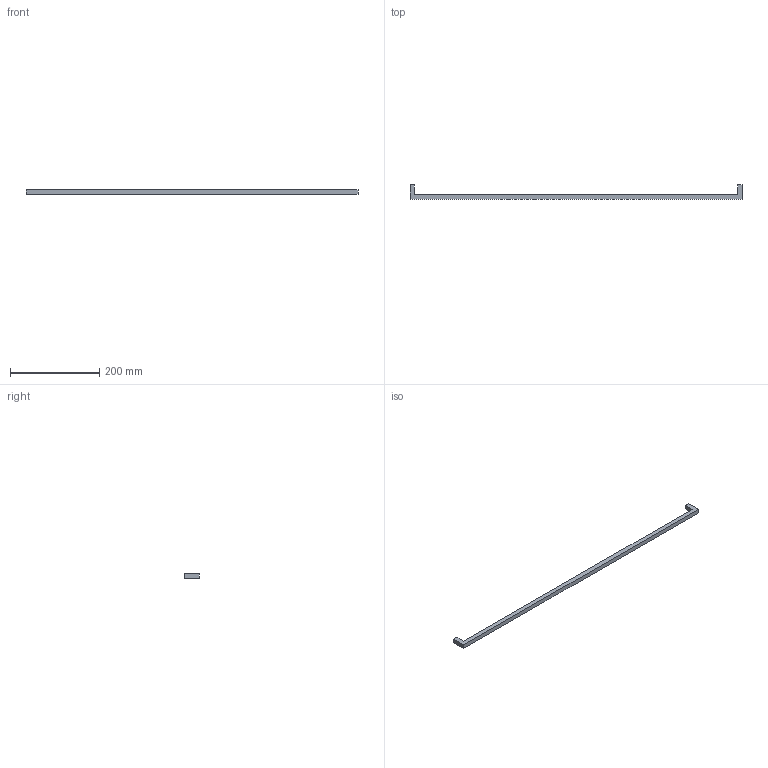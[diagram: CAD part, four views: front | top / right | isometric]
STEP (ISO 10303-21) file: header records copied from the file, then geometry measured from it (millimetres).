
FILE_DESCRIPTION( ( '' ), '1' );
FILE_NAME( 'C:/Documents and Settings/Sachin/Desktop/Sheet 10_1/stp/1160025.stp', '2013-10-22T06:50:18', ( '' ), ( '' ), ' ', ' ', ' ' );
FILE_SCHEMA( ( 'CONFIG_CONTROL_DESIGN' ) );
Length unit declared in the file: millimetre
Products named in the file (1): 1
Bounding box: 746 x 32 x 10 mm (x, y, z)
Volume: 78748.7 mm3; surface area: 32051.3 mm2
Topology: 1 solids, 1 shells, 16 faces, 36 edges, 24 vertices
Faces by surface type: plane 12, cylinder 4
Entity records: 492 total; most frequent: DIRECTION 78, CARTESIAN_POINT 77, ORIENTED_EDGE 72, EDGE_CURVE 36, LINE 28, VECTOR 28, AXIS2_PLACEMENT_3D 25, VERTEX_POINT 24
